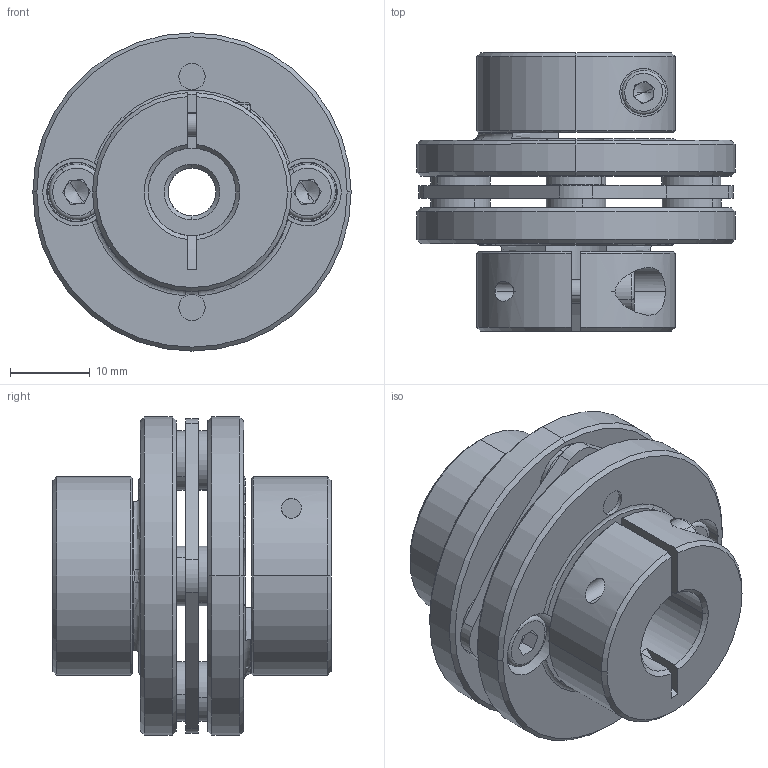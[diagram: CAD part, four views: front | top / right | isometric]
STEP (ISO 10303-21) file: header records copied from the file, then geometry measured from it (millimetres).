
FILE_DESCRIPTION (( 'STEP AP203' ), '1' );
FILE_NAME ('LE1-B-D40L35-6-11.STEP', '2021-11-01T02:04:23', ( '' ), ( '' ), 'SwSTEP 2.0', 'SolidWorks 2018', '' );
FILE_SCHEMA (( 'CONFIG_CONTROL_DESIGN' ));
Length unit declared in the file: millimetre
Products named in the file (1): LE1-B-D40L35-6-11
Bounding box: 40 x 35 x 40 mm (x, y, z)
Volume: 20093.1 mm3; surface area: 12743.3 mm2
Topology: 1 solids, 13 shells, 423 faces, 1021 edges, 630 vertices
Faces by surface type: cylinder 149, plane 140, cone 114, torus 18, bspline 2
Entity records: 12768 total; most frequent: CARTESIAN_POINT 2461, DIRECTION 2335, ORIENTED_EDGE 2018, EDGE_CURVE 1009, AXIS2_PLACEMENT_3D 952, VERTEX_POINT 630, CIRCLE 530, EDGE_LOOP 491
